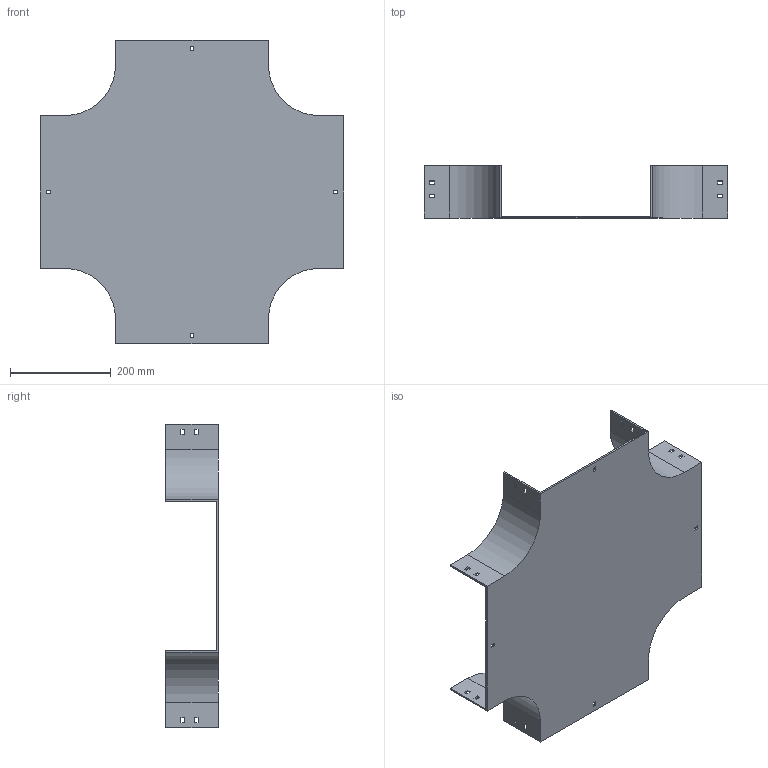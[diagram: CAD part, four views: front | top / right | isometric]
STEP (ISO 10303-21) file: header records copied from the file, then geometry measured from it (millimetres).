
FILE_DESCRIPTION (( 'STEP AP214' ), '1' );
FILE_NAME ('17B1D300.step', '2025-02-21T09:56:16', ( '' ), ( '' ), 'SwSTEP 2.0', 'SolidWorks 2023', '' );
FILE_SCHEMA (( 'AUTOMOTIVE_DESIGN' ));
Length unit declared in the file: millimetre
Products named in the file (1): 17B1D300
Bounding box: 604 x 104 x 604 mm (x, y, z)
Volume: 1352740 mm3; surface area: 786001.4 mm2
Topology: 1 solids, 1 shells, 114 faces, 336 edges, 224 vertices
Faces by surface type: plane 106, cylinder 8
Entity records: 3839 total; most frequent: CARTESIAN_POINT 675, ORIENTED_EDGE 672, DIRECTION 582, EDGE_CURVE 336, VECTOR 320, LINE 320, VERTEX_POINT 224, EDGE_LOOP 154
